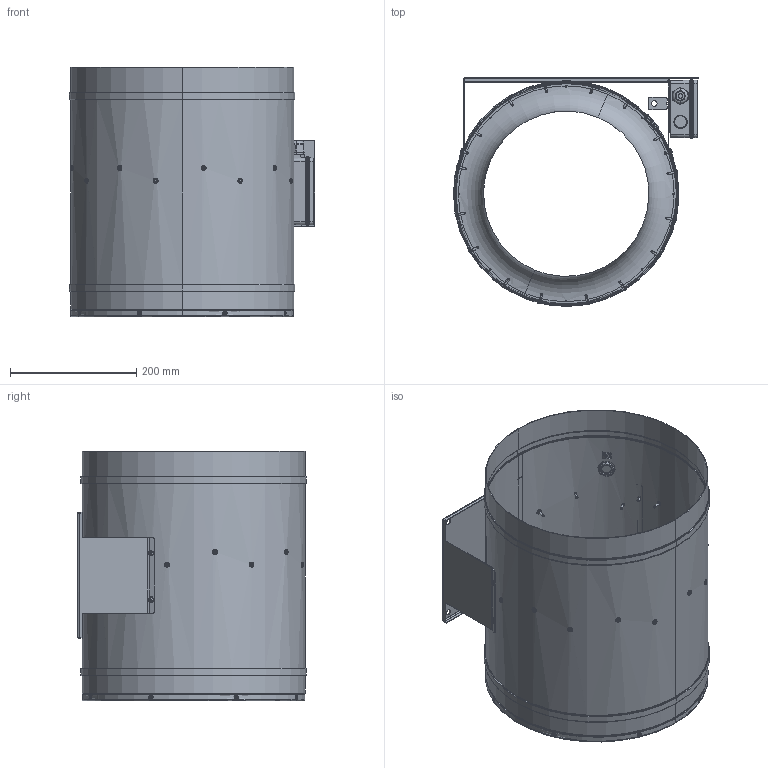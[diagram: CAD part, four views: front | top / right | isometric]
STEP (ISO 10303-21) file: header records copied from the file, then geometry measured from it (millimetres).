
FILE_DESCRIPTION (( 'STEP AP203' ), '1' );
FILE_NAME ('112369-03_EL355E401.STEP', '2013-11-26T14:12:10', ( '' ), ( '' ), 'SwSTEP 2.0', 'SolidWorks 2012', '' );
FILE_SCHEMA (( 'CONFIG_CONTROL_DESIGN' ));
Length unit declared in the file: millimetre
Products named in the file (1): 112369-03_EL355E401
Bounding box: 388.5 x 362.5 x 396 mm (x, y, z)
Surface area: 1195358.4 mm2 (no closed solid volume)
Topology: 0 solids, 78 shells, 614 faces, 2149 edges, 1554 vertices
Faces by surface type: cylinder 260, plane 166, cone 102, torus 68, bspline 18
Entity records: 28590 total; most frequent: CARTESIAN_POINT 10458, DIRECTION 3954, ORIENTED_EDGE 3165, EDGE_CURVE 2143, AXIS2_PLACEMENT_3D 1640, VERTEX_POINT 1551, CIRCLE 1043, EDGE_LOOP 751
